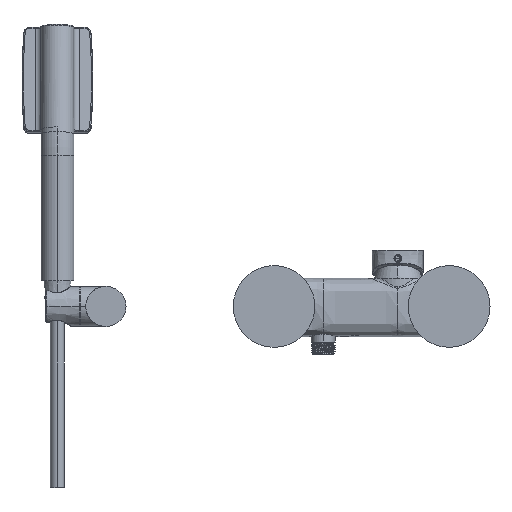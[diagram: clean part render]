
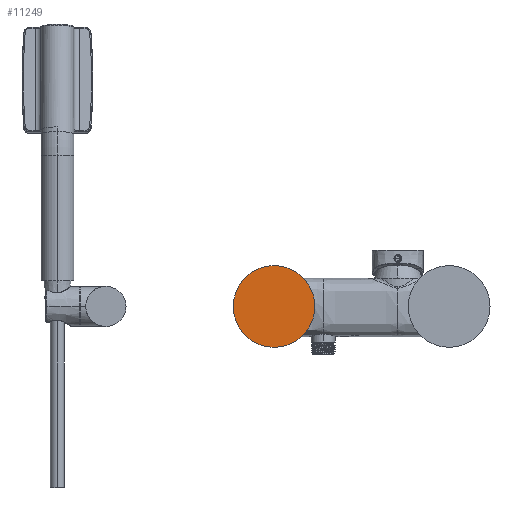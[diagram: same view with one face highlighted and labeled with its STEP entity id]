
A CAD part, left-side view. The second image highlights one B-rep face of the part: STEP entity #11249.
In plain terms, the highlighted planar face has unit normal (-1, 0, 0).
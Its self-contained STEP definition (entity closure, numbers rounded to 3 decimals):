
#3311=CARTESIAN_POINT('',(-75.,106.,0.));
#3312=DIRECTION('',(-1.,0.,0.));
#3313=DIRECTION('',(0.,1.,0.));
#3314=AXIS2_PLACEMENT_3D('',#3311,#3312,#3313);
#3316=CARTESIAN_POINT('',(-75.,106.,0.));
#3317=DIRECTION('',(1.,0.,0.));
#3318=DIRECTION('',(0.,1.,0.));
#3319=AXIS2_PLACEMENT_3D('',#3316,#3317,#3318);
#7915=CARTESIAN_POINT('',(-75.,141.,0.));
#7916=VERTEX_POINT('',#7915);
#7921=CARTESIAN_POINT('',(-75.,71.,0.));
#7922=VERTEX_POINT('',#7921);
#11240=CARTESIAN_POINT('',(-75.,106.,0.));
#11241=DIRECTION('',(1.,0.,0.));
#11242=DIRECTION('',(0.,-1.,0.));
#11243=AXIS2_PLACEMENT_3D('',#11240,#11241,#11242);
#11244=PLANE('',#11243);
#11245=ORIENTED_EDGE('',*,*,#11219,.F.);
#11246=ORIENTED_EDGE('',*,*,#11235,.T.);
#11247=EDGE_LOOP('',(#11245,#11246));
#11248=FACE_OUTER_BOUND('',#11247,.F.);
#11249=ADVANCED_FACE('',(#11248),#11244,.F.);
#3315=CIRCLE('',#3314,35.);
#3320=CIRCLE('',#3319,35.);
#11219=EDGE_CURVE('',#7916,#7922,#3315,.T.);
#11235=EDGE_CURVE('',#7916,#7922,#3320,.T.);
